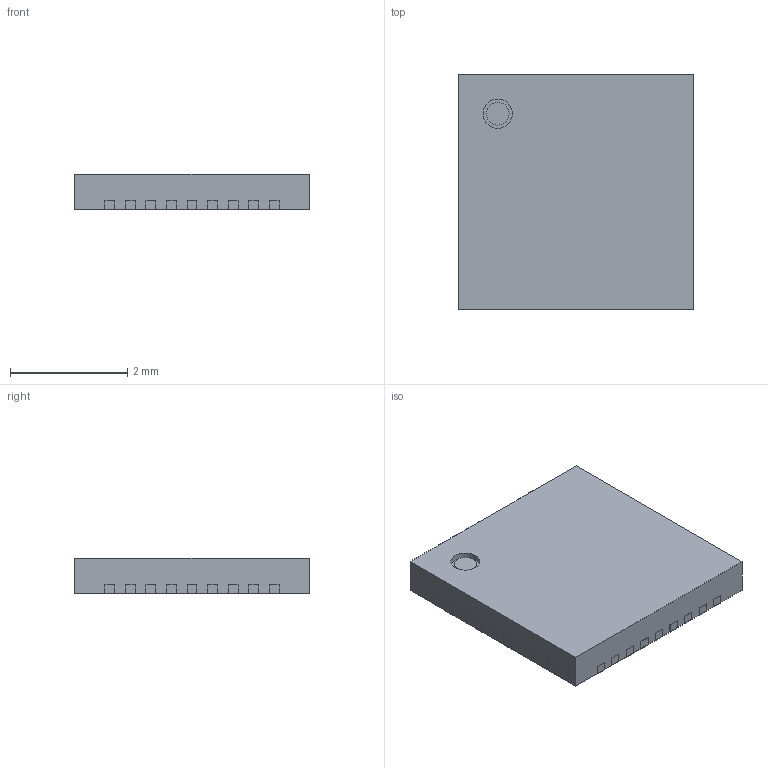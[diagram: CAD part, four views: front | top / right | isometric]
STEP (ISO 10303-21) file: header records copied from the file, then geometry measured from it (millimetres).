
FILE_DESCRIPTION (( 'STEP AP214' ), '1' );
FILE_NAME ('QFN36_4X4X0.6.STEP', '2024-09-17T09:11:06', ( '' ), ( '' ), 'SwSTEP 2.0', 'SolidWorks 2016', '' );
FILE_SCHEMA (( 'AUTOMOTIVE_DESIGN' ));
Length unit declared in the file: millimetre
Products named in the file (9): Body; Open CASCADE STEP translator 7.5 49.1; QFN36_4X4X0.6; 4; Open CASCADE STEP translator 7.5 25.4.1; Open CASCADE STEP translator 7.5 25.2.1; 3; Thermal Shape; Pin Shape
Assembly tree (41 placements, depth 3):
  QFN36_4X4X0.6
    Body
      Open CASCADE STEP translator 7.5 25.2.1
    Thermal Shape
    3  x4
    Pin Shape  x28
      Open CASCADE STEP translator 7.5 25.4.1
    4  x4
    Open CASCADE STEP translator 7.5 49.1
Bounding box: 4 x 4 x 0.6 mm (x, y, z)
Volume: 9.6 mm3; surface area: 63.1 mm2
Topology: 39 solids, 39 shells, 316 faces, 711 edges, 474 vertices
Faces by surface type: plane 312, cylinder 4
Entity records: 2251 total; most frequent: DIRECTION 291, CARTESIAN_POINT 257, ORIENTED_EDGE 198, AXIS2_PLACEMENT_3D 100, EDGE_CURVE 99, VECTOR 91, LINE 91, VERTEX_POINT 66
